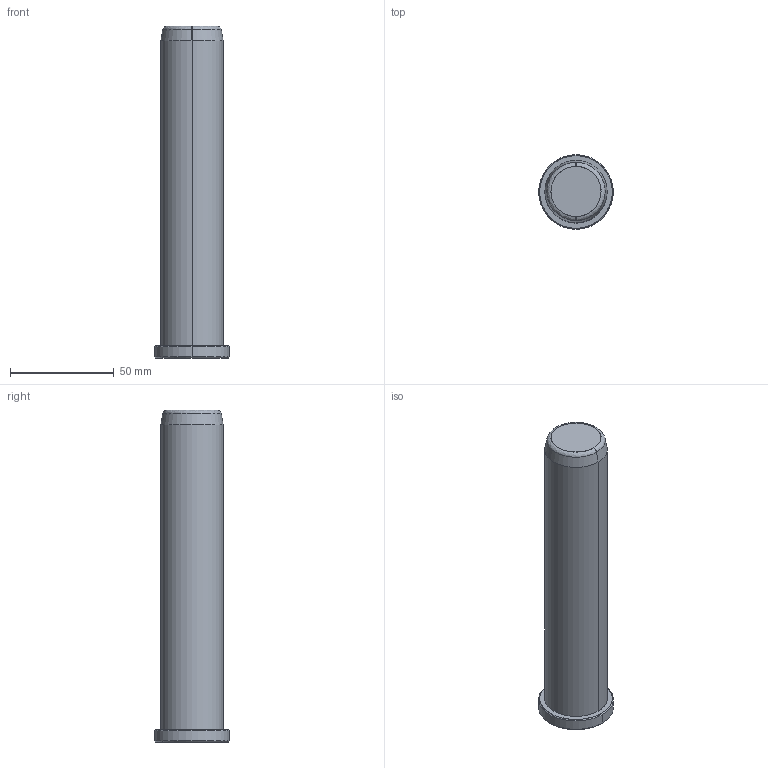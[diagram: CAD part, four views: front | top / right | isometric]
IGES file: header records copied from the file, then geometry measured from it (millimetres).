
Start section: START RECORD GO HERE.
Global section: file name: B81830160.igs; native system: DASSAULT SYSTEMES CATIA V5 R20 - www.3ds.com; preprocessor: CATIA Version 5 Release 20 ; author: Utente; organization: NB04-ASUS; date: 20200419.172053; units: millimetre
Bounding box: 36 x 36 x 160 mm (x, y, z)
Surface area: 16982.5 mm2 (no closed solid volume)
Topology: 0 solids, 0 shells, 17 faces, 68 edges, 68 vertices
Faces by surface type: revolution 14, plane 3
